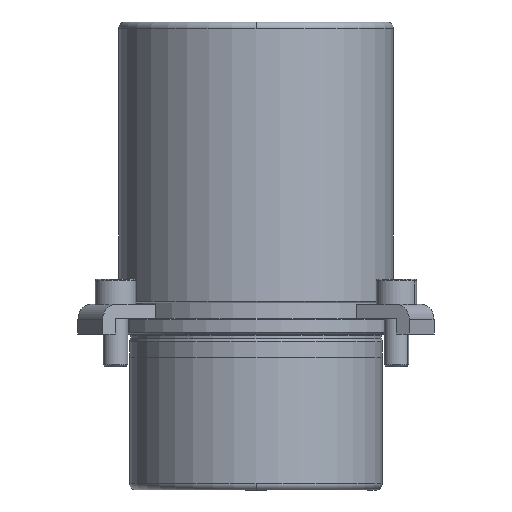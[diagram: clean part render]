
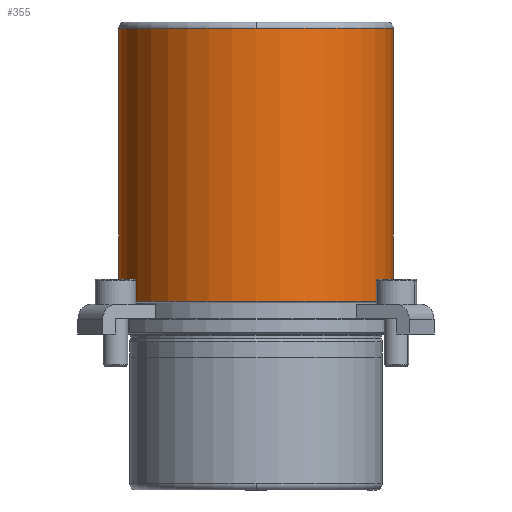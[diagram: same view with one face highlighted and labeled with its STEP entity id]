
A CAD part, front view. The second image highlights one B-rep face of the part: STEP entity #355.
In plain terms, the highlighted cylindrical face has radius 44 mm (diameter 88 mm), a partial arc.
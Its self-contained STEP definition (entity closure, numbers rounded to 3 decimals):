
#269=CARTESIAN_POINT('',(0.0,-44.,98.));
#270=VERTEX_POINT('',#269);
#296=CARTESIAN_POINT('',(-44.0,0.,98.));
#297=VERTEX_POINT('',#296);
#305=CARTESIAN_POINT('',(0.0,0.,98.));
#306=DIRECTION('',(0.0,0.0,1.0));
#307=DIRECTION('',(1.0,0.0,0.0));
#308=AXIS2_PLACEMENT_3D('',#305,#306,#307);
#309=CIRCLE('',#308,44.0);
#310=EDGE_CURVE('',#297,#270,#309,.T.);
#315=CARTESIAN_POINT('',(0.0,0.,54.25));
#316=DIRECTION('',(0.0,0.,1.0));
#317=DIRECTION('',(1.0,0.0,0.0));
#318=AXIS2_PLACEMENT_3D('',#315,#316,#317);
#319=CYLINDRICAL_SURFACE('',#318,44.0);
#320=CARTESIAN_POINT('',(44.0,0.,98.));
#321=VERTEX_POINT('',#320);
#322=CARTESIAN_POINT('',(44.0,0.,10.5));
#323=VERTEX_POINT('',#322);
#324=CARTESIAN_POINT('',(44.0,0.,98.));
#325=DIRECTION('',(0.0,0.0,-1.0));
#326=VECTOR('',#325,87.5);
#327=LINE('',#324,#326);
#328=EDGE_CURVE('',#321,#323,#327,.T.);
#329=ORIENTED_EDGE('',*,*,#328,.F.);
#330=CARTESIAN_POINT('',(0.0,0.,98.));
#331=DIRECTION('',(0.0,0.0,1.0));
#332=DIRECTION('',(1.0,0.0,0.0));
#333=AXIS2_PLACEMENT_3D('',#330,#331,#332);
#334=CIRCLE('',#333,44.0);
#335=EDGE_CURVE('',#270,#321,#334,.T.);
#336=ORIENTED_EDGE('',*,*,#335,.F.);
#337=ORIENTED_EDGE('',*,*,#310,.F.);
#338=CARTESIAN_POINT('',(-44.0,0.,10.5));
#339=VERTEX_POINT('',#338);
#340=CARTESIAN_POINT('',(-44.0,0.,98.));
#341=DIRECTION('',(0.0,0.0,-1.0));
#342=VECTOR('',#341,87.5);
#343=LINE('',#340,#342);
#344=EDGE_CURVE('',#297,#339,#343,.T.);
#345=ORIENTED_EDGE('',*,*,#344,.T.);
#346=CARTESIAN_POINT('',(0.0,0.,10.5));
#347=DIRECTION('',(0.0,0.0,1.0));
#348=DIRECTION('',(1.0,0.0,0.0));
#349=AXIS2_PLACEMENT_3D('',#346,#347,#348);
#350=CIRCLE('',#349,44.0);
#351=EDGE_CURVE('',#339,#323,#350,.T.);
#352=ORIENTED_EDGE('',*,*,#351,.T.);
#353=EDGE_LOOP('',(#329,#336,#337,#345,#352));
#354=FACE_OUTER_BOUND('',#353,.T.);
#355=ADVANCED_FACE('',(#354),#319,.T.);
